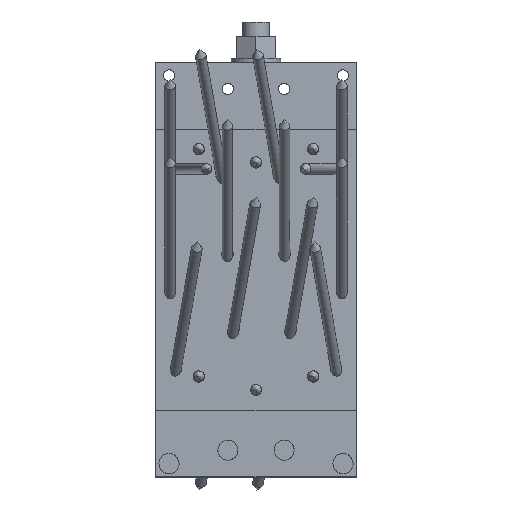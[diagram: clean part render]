
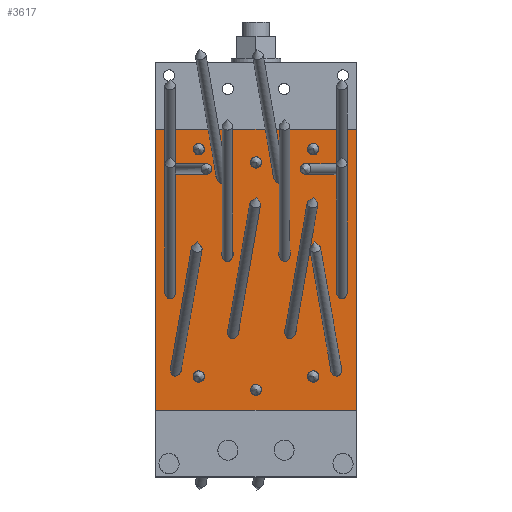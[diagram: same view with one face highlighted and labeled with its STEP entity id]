
A CAD part, top view. The second image highlights one B-rep face of the part: STEP entity #3617.
In plain terms, the highlighted planar face has unit normal (0, 0, 1) as drawn and (0, 0, -1) by its records, which use the part's own axes.
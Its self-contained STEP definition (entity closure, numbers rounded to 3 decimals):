
#32=ELLIPSE('',#4196,6.103,4.25);
#33=ELLIPSE('',#4197,6.103,4.25);
#34=ELLIPSE('',#4198,6.103,4.25);
#35=ELLIPSE('',#4199,6.103,4.25);
#36=ELLIPSE('',#4200,6.01,4.25);
#37=ELLIPSE('',#4201,6.01,4.25);
#38=ELLIPSE('',#4202,6.01,4.25);
#39=ELLIPSE('',#4203,6.01,4.25);
#40=ELLIPSE('',#4204,6.01,4.25);
#41=ELLIPSE('',#4205,6.01,4.25);
#42=ELLIPSE('',#4206,6.103,4.25);
#43=ELLIPSE('',#4207,6.103,4.25);
#44=ELLIPSE('',#4208,4.316,4.25);
#45=ELLIPSE('',#4209,4.316,4.25);
#170=LINE('',#5988,#450);
#172=LINE('',#6032,#452);
#173=LINE('',#6034,#453);
#174=LINE('',#6036,#454);
#450=VECTOR('',#4797,1000.);
#452=VECTOR('',#4841,1000.);
#453=VECTOR('',#4842,1000.);
#454=VECTOR('',#4843,1000.);
#861=PLANE('',#4195);
#1219=ORIENTED_EDGE('',*,*,#2038,.F.);
#1220=ORIENTED_EDGE('',*,*,#2039,.F.);
#1221=ORIENTED_EDGE('',*,*,#2040,.F.);
#1222=ORIENTED_EDGE('',*,*,#2041,.F.);
#1223=ORIENTED_EDGE('',*,*,#2042,.F.);
#1224=ORIENTED_EDGE('',*,*,#2043,.F.);
#1225=ORIENTED_EDGE('',*,*,#2044,.F.);
#1226=ORIENTED_EDGE('',*,*,#2045,.F.);
#1227=ORIENTED_EDGE('',*,*,#2046,.F.);
#1228=ORIENTED_EDGE('',*,*,#2047,.F.);
#1229=ORIENTED_EDGE('',*,*,#2048,.F.);
#1230=ORIENTED_EDGE('',*,*,#2049,.F.);
#1231=ORIENTED_EDGE('',*,*,#2050,.F.);
#1232=ORIENTED_EDGE('',*,*,#2051,.F.);
#1233=ORIENTED_EDGE('',*,*,#2052,.F.);
#1234=ORIENTED_EDGE('',*,*,#2053,.F.);
#1235=ORIENTED_EDGE('',*,*,#2054,.F.);
#1236=ORIENTED_EDGE('',*,*,#2055,.F.);
#1237=ORIENTED_EDGE('',*,*,#2056,.F.);
#1238=ORIENTED_EDGE('',*,*,#2057,.F.);
#1239=ORIENTED_EDGE('',*,*,#2058,.F.);
#1240=ORIENTED_EDGE('',*,*,#2059,.T.);
#1241=ORIENTED_EDGE('',*,*,#2060,.T.);
#1242=ORIENTED_EDGE('',*,*,#2036,.F.);
#2036=EDGE_CURVE('',#2436,#2437,#170,.T.);
#2038=EDGE_CURVE('',#2438,#2438,#32,.T.);
#2039=EDGE_CURVE('',#2439,#2439,#33,.T.);
#2040=EDGE_CURVE('',#2440,#2440,#34,.T.);
#2041=EDGE_CURVE('',#2441,#2441,#35,.T.);
#2042=EDGE_CURVE('',#2442,#2442,#36,.T.);
#2043=EDGE_CURVE('',#2443,#2443,#37,.T.);
#2044=EDGE_CURVE('',#2444,#2444,#38,.T.);
#2045=EDGE_CURVE('',#2445,#2445,#39,.T.);
#2046=EDGE_CURVE('',#2446,#2446,#40,.T.);
#2047=EDGE_CURVE('',#2447,#2447,#41,.T.);
#2048=EDGE_CURVE('',#2448,#2448,#42,.T.);
#2049=EDGE_CURVE('',#2449,#2449,#43,.T.);
#2050=EDGE_CURVE('',#2450,#2450,#44,.T.);
#2051=EDGE_CURVE('',#2451,#2451,#45,.T.);
#2052=EDGE_CURVE('',#2452,#2452,#2660,.T.);
#2053=EDGE_CURVE('',#2453,#2453,#2661,.T.);
#2054=EDGE_CURVE('',#2454,#2454,#2662,.T.);
#2055=EDGE_CURVE('',#2455,#2455,#2663,.T.);
#2056=EDGE_CURVE('',#2456,#2456,#2664,.T.);
#2057=EDGE_CURVE('',#2457,#2457,#2665,.T.);
#2058=EDGE_CURVE('',#2458,#2436,#172,.T.);
#2059=EDGE_CURVE('',#2458,#2459,#173,.T.);
#2060=EDGE_CURVE('',#2459,#2437,#174,.T.);
#2436=VERTEX_POINT('',#5987);
#2437=VERTEX_POINT('',#5989);
#2438=VERTEX_POINT('',#5993);
#2439=VERTEX_POINT('',#5995);
#2440=VERTEX_POINT('',#5997);
#2441=VERTEX_POINT('',#5999);
#2442=VERTEX_POINT('',#6001);
#2443=VERTEX_POINT('',#6003);
#2444=VERTEX_POINT('',#6005);
#2445=VERTEX_POINT('',#6007);
#2446=VERTEX_POINT('',#6009);
#2447=VERTEX_POINT('',#6011);
#2448=VERTEX_POINT('',#6013);
#2449=VERTEX_POINT('',#6015);
#2450=VERTEX_POINT('',#6017);
#2451=VERTEX_POINT('',#6019);
#2452=VERTEX_POINT('',#6021);
#2453=VERTEX_POINT('',#6023);
#2454=VERTEX_POINT('',#6025);
#2455=VERTEX_POINT('',#6027);
#2456=VERTEX_POINT('',#6029);
#2457=VERTEX_POINT('',#6031);
#2458=VERTEX_POINT('',#6033);
#2459=VERTEX_POINT('',#6035);
#2660=CIRCLE('',#4210,4.25);
#2661=CIRCLE('',#4211,4.25);
#2662=CIRCLE('',#4212,4.25);
#2663=CIRCLE('',#4213,4.25);
#2664=CIRCLE('',#4214,4.25);
#2665=CIRCLE('',#4215,4.25);
#2816=EDGE_LOOP('',(#1219));
#2817=EDGE_LOOP('',(#1220));
#2818=EDGE_LOOP('',(#1221));
#2819=EDGE_LOOP('',(#1222));
#2820=EDGE_LOOP('',(#1223));
#2821=EDGE_LOOP('',(#1224));
#2822=EDGE_LOOP('',(#1225));
#2823=EDGE_LOOP('',(#1226));
#2824=EDGE_LOOP('',(#1227));
#2825=EDGE_LOOP('',(#1228));
#2826=EDGE_LOOP('',(#1229));
#2827=EDGE_LOOP('',(#1230));
#2828=EDGE_LOOP('',(#1231));
#2829=EDGE_LOOP('',(#1232));
#2830=EDGE_LOOP('',(#1233));
#2831=EDGE_LOOP('',(#1234));
#2832=EDGE_LOOP('',(#1235));
#2833=EDGE_LOOP('',(#1236));
#2834=EDGE_LOOP('',(#1237));
#2835=EDGE_LOOP('',(#1238));
#2836=EDGE_LOOP('',(#1239,#1240,#1241,#1242));
#3213=FACE_BOUND('',#2816,.T.);
#3214=FACE_BOUND('',#2817,.T.);
#3215=FACE_BOUND('',#2818,.T.);
#3216=FACE_BOUND('',#2819,.T.);
#3217=FACE_BOUND('',#2820,.T.);
#3218=FACE_BOUND('',#2821,.T.);
#3219=FACE_BOUND('',#2822,.T.);
#3220=FACE_BOUND('',#2823,.T.);
#3221=FACE_BOUND('',#2824,.T.);
#3222=FACE_BOUND('',#2825,.T.);
#3223=FACE_BOUND('',#2826,.T.);
#3224=FACE_BOUND('',#2827,.T.);
#3225=FACE_BOUND('',#2828,.T.);
#3226=FACE_BOUND('',#2829,.T.);
#3227=FACE_BOUND('',#2830,.T.);
#3228=FACE_BOUND('',#2831,.T.);
#3229=FACE_BOUND('',#2832,.T.);
#3230=FACE_BOUND('',#2833,.T.);
#3231=FACE_BOUND('',#2834,.T.);
#3232=FACE_BOUND('',#2835,.T.);
#3233=FACE_BOUND('',#2836,.T.);
#3617=ADVANCED_FACE('',(#3213,#3214,#3215,#3216,#3217,#3218,#3219,#3220,
#3221,#3222,#3223,#3224,#3225,#3226,#3227,#3228,#3229,#3230,#3231,#3232,
#3233),#861,.T.);
#4195=AXIS2_PLACEMENT_3D('',#5991,#4799,#4800);
#4196=AXIS2_PLACEMENT_3D('',#5992,#4801,#4802);
#4197=AXIS2_PLACEMENT_3D('',#5994,#4803,#4804);
#4198=AXIS2_PLACEMENT_3D('',#5996,#4805,#4806);
#4199=AXIS2_PLACEMENT_3D('',#5998,#4807,#4808);
#4200=AXIS2_PLACEMENT_3D('',#6000,#4809,#4810);
#4201=AXIS2_PLACEMENT_3D('',#6002,#4811,#4812);
#4202=AXIS2_PLACEMENT_3D('',#6004,#4813,#4814);
#4203=AXIS2_PLACEMENT_3D('',#6006,#4815,#4816);
#4204=AXIS2_PLACEMENT_3D('',#6008,#4817,#4818);
#4205=AXIS2_PLACEMENT_3D('',#6010,#4819,#4820);
#4206=AXIS2_PLACEMENT_3D('',#6012,#4821,#4822);
#4207=AXIS2_PLACEMENT_3D('',#6014,#4823,#4824);
#4208=AXIS2_PLACEMENT_3D('',#6016,#4825,#4826);
#4209=AXIS2_PLACEMENT_3D('',#6018,#4827,#4828);
#4210=AXIS2_PLACEMENT_3D('',#6020,#4829,#4830);
#4211=AXIS2_PLACEMENT_3D('',#6022,#4831,#4832);
#4212=AXIS2_PLACEMENT_3D('',#6024,#4833,#4834);
#4213=AXIS2_PLACEMENT_3D('',#6026,#4835,#4836);
#4214=AXIS2_PLACEMENT_3D('',#6028,#4837,#4838);
#4215=AXIS2_PLACEMENT_3D('',#6030,#4839,#4840);
#4797=DIRECTION('',(0.,-1.,0.));
#4799=DIRECTION('',(0.,0.,-1.));
#4800=DIRECTION('',(-1.,0.,0.));
#4801=DIRECTION('',(0.,0.,-1.));
#4802=DIRECTION('',(-0.171,0.985,0.));
#4803=DIRECTION('',(0.,0.,-1.));
#4804=DIRECTION('',(-0.171,0.985,0.));
#4805=DIRECTION('',(0.,0.,-1.));
#4806=DIRECTION('',(-0.171,0.985,0.));
#4807=DIRECTION('',(0.,0.,-1.));
#4808=DIRECTION('',(0.171,0.985,0.));
#4809=DIRECTION('',(0.,0.,-1.));
#4810=DIRECTION('',(0.,1.,0.));
#4811=DIRECTION('',(0.,0.,-1.));
#4812=DIRECTION('',(0.,1.,0.));
#4813=DIRECTION('',(0.,0.,-1.));
#4814=DIRECTION('',(0.,1.,0.));
#4815=DIRECTION('',(0.,0.,-1.));
#4816=DIRECTION('',(0.,1.,0.));
#4817=DIRECTION('',(0.,0.,-1.));
#4818=DIRECTION('',(0.,1.,0.));
#4819=DIRECTION('',(0.,0.,-1.));
#4820=DIRECTION('',(0.,1.,0.));
#4821=DIRECTION('',(0.,0.,-1.));
#4822=DIRECTION('',(0.171,0.985,0.));
#4823=DIRECTION('',(0.,0.,-1.));
#4824=DIRECTION('',(0.171,0.985,0.));
#4825=DIRECTION('',(0.,0.,-1.));
#4826=DIRECTION('',(-1.,0.,0.));
#4827=DIRECTION('',(0.,0.,-1.));
#4828=DIRECTION('',(1.,0.,0.));
#4829=DIRECTION('',(0.,0.,-1.));
#4830=DIRECTION('',(-1.,0.,0.));
#4831=DIRECTION('',(0.,0.,-1.));
#4832=DIRECTION('',(-1.,0.,0.));
#4833=DIRECTION('',(0.,0.,-1.));
#4834=DIRECTION('',(-1.,0.,0.));
#4835=DIRECTION('',(0.,0.,-1.));
#4836=DIRECTION('',(-1.,0.,0.));
#4837=DIRECTION('',(0.,0.,-1.));
#4838=DIRECTION('',(-1.,0.,0.));
#4839=DIRECTION('',(0.,0.,-1.));
#4840=DIRECTION('',(-1.,0.,0.));
#4841=DIRECTION('',(-1.,0.,0.));
#4842=DIRECTION('',(0.,-1.,0.));
#4843=DIRECTION('',(-1.,0.,0.));
#5987=CARTESIAN_POINT('',(0.,230.,0.));
#5988=CARTESIAN_POINT('',(0.,250.,0.));
#5989=CARTESIAN_POINT('',(0.,20.,0.));
#5991=CARTESIAN_POINT('',(0.,250.,0.));
#5992=CARTESIAN_POINT('',(15.283,198.614,0.));
#5993=CARTESIAN_POINT('',(14.239,204.627,0.));
#5994=CARTESIAN_POINT('',(58.033,170.613,0.));
#5995=CARTESIAN_POINT('',(56.989,176.626,0.));
#5996=CARTESIAN_POINT('',(100.783,170.613,0.));
#5997=CARTESIAN_POINT('',(99.739,176.626,0.));
#5998=CARTESIAN_POINT('',(134.717,198.614,0.));
#5999=CARTESIAN_POINT('',(135.761,204.627,0.));
#6000=CARTESIAN_POINT('',(10.875,141.,0.));
#6001=CARTESIAN_POINT('',(10.875,147.01,0.));
#6002=CARTESIAN_POINT('',(53.625,113.,0.));
#6003=CARTESIAN_POINT('',(53.625,119.01,0.));
#6004=CARTESIAN_POINT('',(96.375,113.,0.));
#6005=CARTESIAN_POINT('',(96.375,119.01,0.));
#6006=CARTESIAN_POINT('',(139.125,141.,0.));
#6007=CARTESIAN_POINT('',(139.125,147.01,0.));
#6008=CARTESIAN_POINT('',(139.125,83.,0.));
#6009=CARTESIAN_POINT('',(139.125,89.01,0.));
#6010=CARTESIAN_POINT('',(10.875,83.,0.));
#6011=CARTESIAN_POINT('',(10.875,89.01,0.));
#6012=CARTESIAN_POINT('',(49.217,54.612,0.));
#6013=CARTESIAN_POINT('',(50.261,60.625,0.));
#6014=CARTESIAN_POINT('',(91.967,54.612,0.));
#6015=CARTESIAN_POINT('',(93.011,60.625,0.));
#6016=CARTESIAN_POINT('',(15.283,50.,0.));
#6017=CARTESIAN_POINT('',(10.968,50.,0.));
#6018=CARTESIAN_POINT('',(134.717,50.,0.));
#6019=CARTESIAN_POINT('',(139.032,50.,0.));
#6020=CARTESIAN_POINT('',(32.25,205.,0.));
#6021=CARTESIAN_POINT('',(28.,205.,0.));
#6022=CARTESIAN_POINT('',(75.,215.,0.));
#6023=CARTESIAN_POINT('',(70.75,215.,0.));
#6024=CARTESIAN_POINT('',(117.75,205.,0.));
#6025=CARTESIAN_POINT('',(113.5,205.,0.));
#6026=CARTESIAN_POINT('',(117.75,35.,0.));
#6027=CARTESIAN_POINT('',(113.5,35.,0.));
#6028=CARTESIAN_POINT('',(75.,45.,0.));
#6029=CARTESIAN_POINT('',(70.75,45.,0.));
#6030=CARTESIAN_POINT('',(32.25,35.,0.));
#6031=CARTESIAN_POINT('',(28.,35.,0.));
#6032=CARTESIAN_POINT('',(150.,230.,0.));
#6033=CARTESIAN_POINT('',(150.,230.,0.));
#6034=CARTESIAN_POINT('',(150.,250.,0.));
#6035=CARTESIAN_POINT('',(150.,20.,0.));
#6036=CARTESIAN_POINT('',(357.205,20.,0.));
